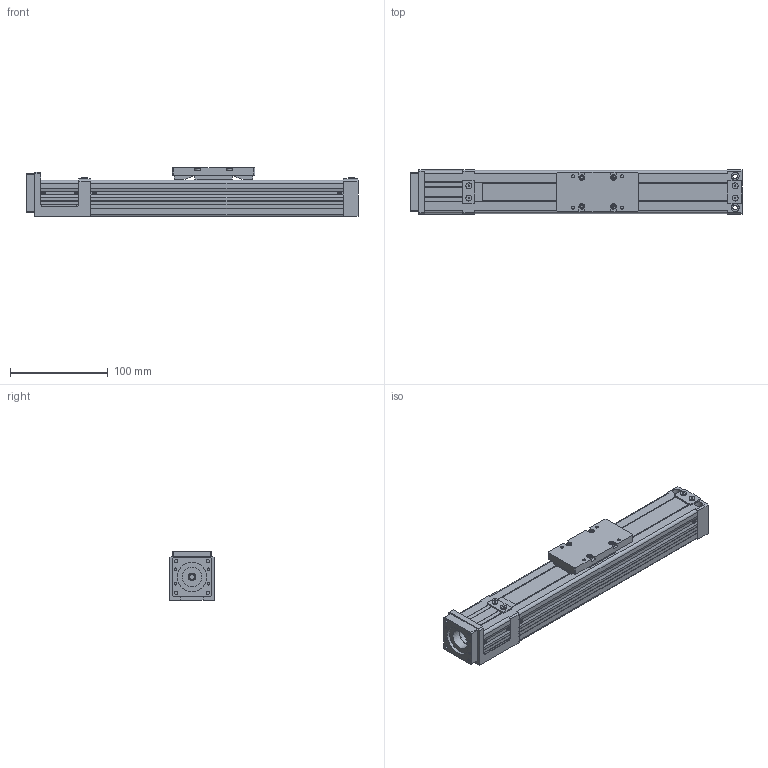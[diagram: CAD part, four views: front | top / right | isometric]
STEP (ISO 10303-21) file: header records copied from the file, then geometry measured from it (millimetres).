
FILE_DESCRIPTION((''),'2;1');
FILE_NAME('D:\製品 (図面)\カタログ用3D\SU部品\SU45×50\ダウンロード用\SU45×50-MB40\SU45×50-150-MB40.stp','2011-06-17T14:33:47',('Tsuchiya'),(''),'Autodesk Inventor 10','Autodesk Inventor 10','');
FILE_SCHEMA(('AUTOMOTIVE_DESIGN { 1 0 10303 214 1 1 1 1 }'));
Length unit declared in the file: millimetre
Products named in the file (3): SU45×50-150-MB40; SB45×50-150-MB40-1(1); SU45×50-T(1)
Assembly tree (2 placements, depth 2):
  SU45×50-150-MB40
    SB45×50-150-MB40-1(1)
    SU45×50-T(1)
Bounding box: 339 x 45 x 50 mm (x, y, z)
Volume: 251932.3 mm3; surface area: 142484 mm2
Topology: 2 solids, 30 shells, 907 faces, 2202 edges, 1396 vertices
Faces by surface type: plane 687, cylinder 120, bspline 57, cone 25, torus 18
Full cylindrical faces by diameter (mm): 2.113 x2, 2.459 x4, 2.6 x8, 3 x6, 3.242 x8, 3.4 x8, 3.6 x4, 4 x6, 4.5 x10, 5 x4, 6 x5, 7 x6, 8 x7, 10 x1, 20 x2, 30 x2
Entity records: 25301 total; most frequent: CARTESIAN_POINT 5377, DIRECTION 3930, ORIENTED_EDGE 3868, EDGE_CURVE 1934, VECTOR 1484, LINE 1484, VERTEX_POINT 1296, AXIS2_PLACEMENT_3D 1223
